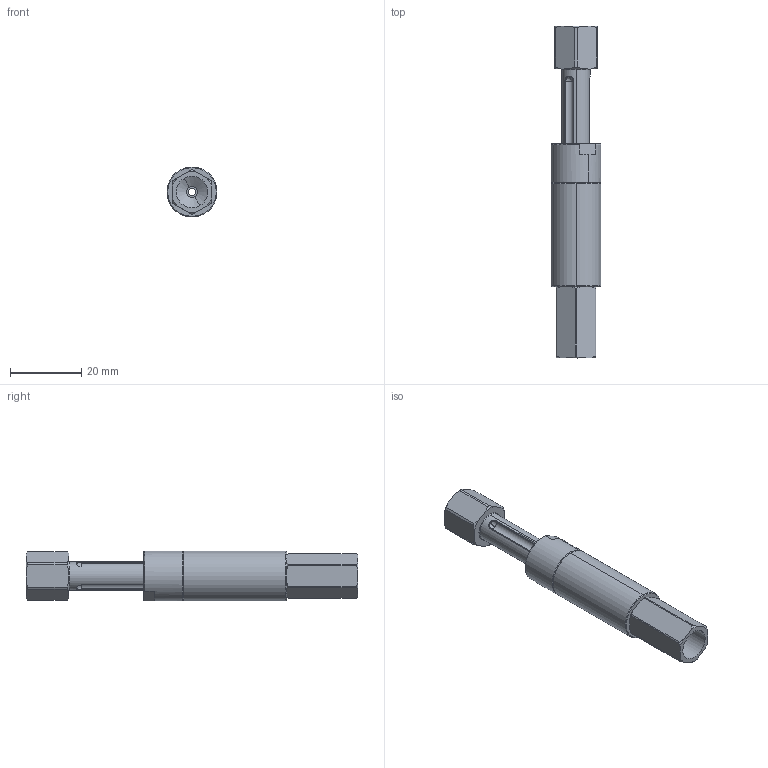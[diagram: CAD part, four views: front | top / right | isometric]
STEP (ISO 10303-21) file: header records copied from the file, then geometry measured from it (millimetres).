
FILE_DESCRIPTION (( 'STEP AP214' ), '1' );
FILE_NAME ('VFN1421-G18.STEP', '2019-11-15T05:29:32', ( '微软用户' ), ( '微软中国' ), 'SwSTEP 2.0', 'SolidWorks 2016', '' );
FILE_SCHEMA (( 'AUTOMOTIVE_DESIGN' ));
Length unit declared in the file: millimetre
Products named in the file (1): VFN1421-G18
Bounding box: 14 x 93 x 14 mm (x, y, z)
Volume: 8577.9 mm3; surface area: 8629.9 mm2
Topology: 4 solids, 4 shells, 291 faces, 687 edges, 414 vertices
Faces by surface type: cone 133, cylinder 99, plane 39, bspline 20
Entity records: 15145 total; most frequent: CARTESIAN_POINT 5175, DIRECTION 1465, ORIENTED_EDGE 1374, EDGE_CURVE 687, AXIS2_PLACEMENT_3D 596, VERTEX_POINT 414, CIRCLE 324, EDGE_LOOP 315
